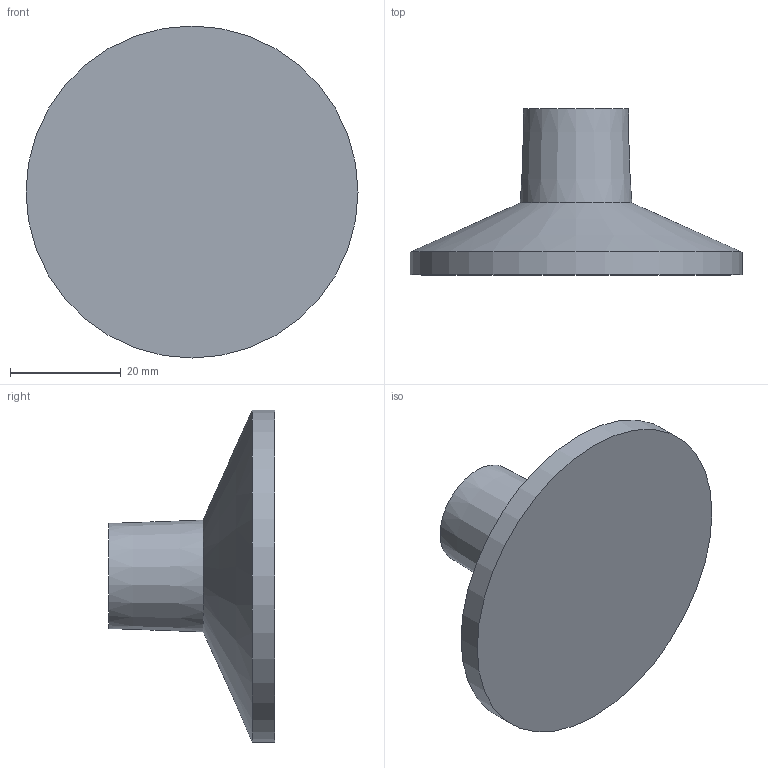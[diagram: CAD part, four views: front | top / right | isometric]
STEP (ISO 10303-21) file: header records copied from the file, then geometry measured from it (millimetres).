
FILE_DESCRIPTION( ( 'STEP AP214' ), '1' );
FILE_NAME( 'D:/Yug/2020/ProDecor_2020/QC/9266141.stp', '2020-06-01T11:34:59', ( '' ), ( '' ), ' ', 'PARTsolutions', ' ' );
FILE_SCHEMA( ( 'AUTOMOTIVE_DESIGN { 1 0 10303 214 1 1 1 1 }' ) );
Length unit declared in the file: millimetre
Products named in the file (1): _9266141
Bounding box: 60 x 30 x 60 mm (x, y, z)
Volume: 28740 mm3; surface area: 7834.8 mm2
Topology: 1 solids, 1 shells, 9 faces, 13 edges, 8 vertices
Faces by surface type: plane 4, cylinder 3, cone 2
Full cylindrical faces by diameter (mm): 3.26 x1, 9.5 x1, 60 x1
Entity records: 262 total; most frequent: DIRECTION 36, CARTESIAN_POINT 26, AXIS2_PLACEMENT_3D 18, EDGE_LOOP 16, ORIENTED_EDGE 16, FACE_OUTER_BOUND 12, STYLED_ITEM 9, PRESENTATION_STYLE_ASSIGNMENT 9
